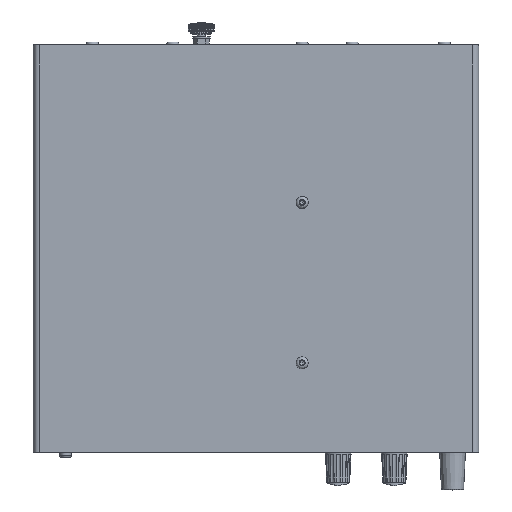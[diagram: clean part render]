
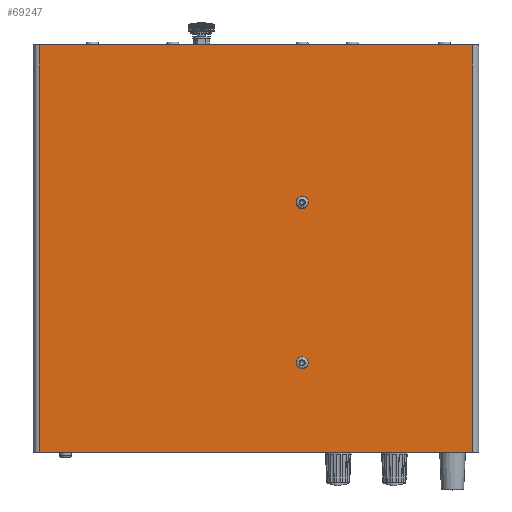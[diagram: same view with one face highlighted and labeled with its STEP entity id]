
A CAD part, top view. The second image highlights one B-rep face of the part: STEP entity #69247.
In plain terms, the highlighted planar face has unit normal (0, 0, 1).
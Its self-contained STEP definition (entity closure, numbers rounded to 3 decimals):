
#2304=FACE_BOUND('',#9236,.T.);
#2305=FACE_BOUND('',#9237,.T.);
#3365=PLANE('',#73130);
#5456=FACE_OUTER_BOUND('',#9235,.T.);
#9235=EDGE_LOOP('',(#44793,#44794,#44795,#44796));
#9236=EDGE_LOOP('',(#44797,#44798));
#9237=EDGE_LOOP('',(#44799,#44800));
#14056=LINE('',#97280,#19875);
#14073=LINE('',#97332,#19892);
#14077=LINE('',#97359,#19896);
#14080=LINE('',#97365,#19899);
#19875=VECTOR('',#79226,10.);
#19892=VECTOR('',#79273,10.);
#19896=VECTOR('',#79305,10.);
#19899=VECTOR('',#79314,10.);
#25703=CIRCLE('',#73114,1.75);
#25704=CIRCLE('',#73115,1.75);
#25707=CIRCLE('',#73119,1.75);
#25708=CIRCLE('',#73120,1.75);
#28422=VERTEX_POINT('',#97277);
#28423=VERTEX_POINT('',#97279);
#28442=VERTEX_POINT('',#97329);
#28443=VERTEX_POINT('',#97331);
#28445=VERTEX_POINT('',#97339);
#28446=VERTEX_POINT('',#97340);
#28449=VERTEX_POINT('',#97349);
#28450=VERTEX_POINT('',#97350);
#34761=EDGE_CURVE('',#28422,#28423,#14056,.T.);
#34788=EDGE_CURVE('',#28442,#28443,#14073,.T.);
#34792=EDGE_CURVE('',#28445,#28446,#25703,.T.);
#34793=EDGE_CURVE('',#28446,#28445,#25704,.T.);
#34797=EDGE_CURVE('',#28449,#28450,#25707,.T.);
#34798=EDGE_CURVE('',#28450,#28449,#25708,.T.);
#34802=EDGE_CURVE('',#28422,#28443,#14077,.T.);
#34805=EDGE_CURVE('',#28442,#28423,#14080,.T.);
#44793=ORIENTED_EDGE('',*,*,#34805,.T.);
#44794=ORIENTED_EDGE('',*,*,#34761,.F.);
#44795=ORIENTED_EDGE('',*,*,#34802,.T.);
#44796=ORIENTED_EDGE('',*,*,#34788,.F.);
#44797=ORIENTED_EDGE('',*,*,#34792,.T.);
#44798=ORIENTED_EDGE('',*,*,#34793,.T.);
#44799=ORIENTED_EDGE('',*,*,#34797,.T.);
#44800=ORIENTED_EDGE('',*,*,#34798,.T.);
#69247=ADVANCED_FACE('',(#5456,#2304,#2305),#3365,.T.);
#73114=AXIS2_PLACEMENT_3D('',#97341,#79283,#79284);
#73115=AXIS2_PLACEMENT_3D('',#97342,#79285,#79286);
#73119=AXIS2_PLACEMENT_3D('',#97351,#79294,#79295);
#73120=AXIS2_PLACEMENT_3D('',#97352,#79296,#79297);
#73130=AXIS2_PLACEMENT_3D('',#97371,#79323,#79324);
#79226=DIRECTION('',(1.,0.,0.));
#79273=DIRECTION('',(-1.,0.,0.));
#79283=DIRECTION('center_axis',(0.,0.,-1.));
#79284=DIRECTION('ref_axis',(1.,0.,0.));
#79285=DIRECTION('center_axis',(0.,0.,-1.));
#79286=DIRECTION('ref_axis',(1.,0.,0.));
#79294=DIRECTION('center_axis',(0.,0.,-1.));
#79295=DIRECTION('ref_axis',(1.,0.,0.));
#79296=DIRECTION('center_axis',(0.,0.,-1.));
#79297=DIRECTION('ref_axis',(1.,0.,0.));
#79305=DIRECTION('',(0.,-1.,0.));
#79314=DIRECTION('',(0.,1.,0.));
#79323=DIRECTION('center_axis',(0.,0.,1.));
#79324=DIRECTION('ref_axis',(1.,0.,0.));
#97277=CARTESIAN_POINT('',(-108.,101.5,52.));
#97279=CARTESIAN_POINT('',(108.,101.5,52.));
#97280=CARTESIAN_POINT('',(-111.,101.5,52.));
#97329=CARTESIAN_POINT('',(108.,-101.5,52.));
#97331=CARTESIAN_POINT('',(-108.,-101.5,52.));
#97332=CARTESIAN_POINT('',(111.,-101.5,52.));
#97339=CARTESIAN_POINT('',(24.75,-57.,52.));
#97340=CARTESIAN_POINT('',(21.25,-57.,52.));
#97341=CARTESIAN_POINT('Origin',(23.,-57.,52.));
#97342=CARTESIAN_POINT('Origin',(23.,-57.,52.));
#97349=CARTESIAN_POINT('',(24.75,23.,52.));
#97350=CARTESIAN_POINT('',(21.25,23.,52.));
#97351=CARTESIAN_POINT('Origin',(23.,23.,52.));
#97352=CARTESIAN_POINT('Origin',(23.,23.,52.));
#97359=CARTESIAN_POINT('',(-108.,50.75,52.));
#97365=CARTESIAN_POINT('',(108.,-50.75,52.));
#97371=CARTESIAN_POINT('Origin',(0.,0.,
52.));
